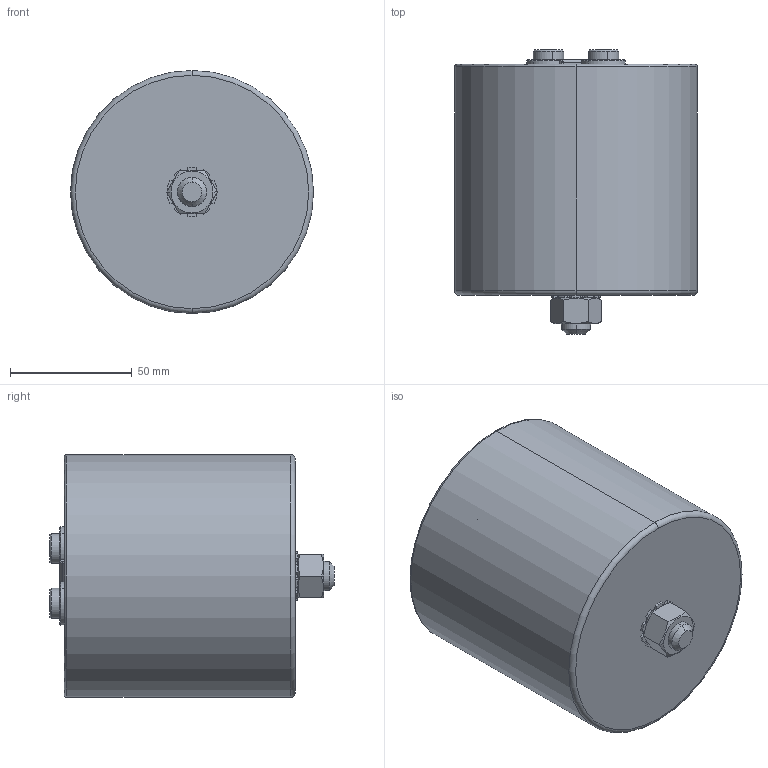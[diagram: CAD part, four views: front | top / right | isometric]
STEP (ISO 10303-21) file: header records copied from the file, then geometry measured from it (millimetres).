
FILE_DESCRIPTION (( 'STEP AP203' ), '1' );
FILE_NAME ('B25690Ax_100x95_101.STEP', '2021-09-06T08:54:53', ( '' ), ( '' ), 'SwSTEP 2.0', 'SolidWorks 2017', '' );
FILE_SCHEMA (( 'CONFIG_CONTROL_DESIGN' ));
Length unit declared in the file: millimetre
Products named in the file (1): B25690Ax_100x95_101
Bounding box: 100 x 117 x 100 mm (x, y, z)
Volume: 126071.5 mm3; surface area: 105977.3 mm2
Topology: 1 solids, 3 shells, 256 faces, 655 edges, 415 vertices
Faces by surface type: plane 133, cylinder 73, cone 40, torus 10
Entity records: 8057 total; most frequent: CARTESIAN_POINT 1865, DIRECTION 1310, ORIENTED_EDGE 1310, EDGE_CURVE 655, AXIS2_PLACEMENT_3D 516, VERTEX_POINT 415, VECTOR 278, LINE 278
